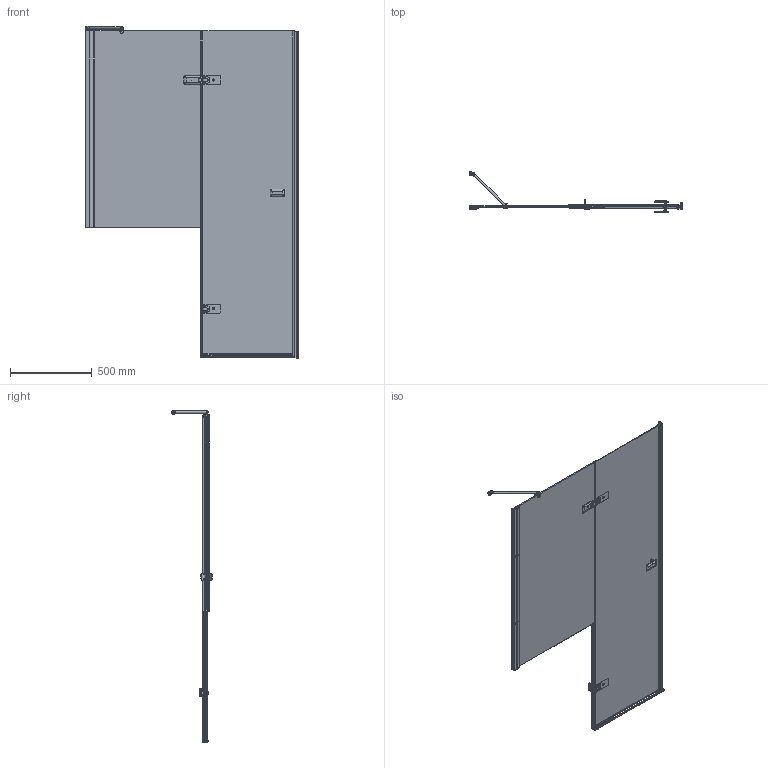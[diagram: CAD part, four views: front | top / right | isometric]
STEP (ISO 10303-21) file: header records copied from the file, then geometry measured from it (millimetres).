
FILE_DESCRIPTION(/* description */ ('Дверь'),/* implementation_level */ '2;1');
FILE_NAME(/* name */ 'D:\Работа\Сергей\Душевые кабинки\! Работа\! 32\TREND DOOR GK-862APLTWO\TREND DOOR GK-862APLTWO левая модель\TREND DOOR GK-862APLTWO ЛЕВАЯ (3D для рендера).stp',/* time_stamp */ '2019-05-10T16:57:15+03:00',/* author */ ('User'),/* organization */ (''),/* preprocessor_version */ 'ST-DEVELOPER v15.2',/* originating_system */ 'Autodesk Inventor 2014',/* authorisation */ '');
FILE_SCHEMA (('CONFIG_CONTROL_DESIGN'));
Length unit declared in the file: millimetre
Products named in the file (64): Стекло.03 (0) TR; Стекло.02 (P-5) TR; CH26-1 P1; CH26-1 P7; CH25-1 P2; CH25-1 P3; CH26-1 P8; CH27-1_2; CH26-1 P2; CH26-1 P3; CH26-1 P4; CH26-1 P5; CH26-1 P6; CH26-0 P13; CH26-0 P14; CH26-0 P15; CH26-0 P11; CH26-0 P12; CH27-0 P1; CH27-0 P3; CH27-0-P2; CH27-1_1; M180-6; Магнит_180; М180-6; UP600M6.01; PR-10-SLK; 07-003; CH20-004; CH21-001; CH21-002; CH21-003; ISO 4026 - M5 x 5ISO; 113; UP603М8.03; PL-10-SLK10-L; PR-12-001; CH27-5 P1; CH27-5 P2; DIN 915 - M6 x 12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
Bounding box: 1300 x 249.9 x 2031.5 mm (x, y, z)
Volume: 15008663 mm3; surface area: 6012656.9 mm2
Topology: 111 solids, 111 shells, 1997 faces, 5009 edges, 3248 vertices
Faces by surface type: plane 1131, cylinder 619, cone 144, bspline 60, torus 35, sphere 8
Full cylindrical faces by diameter (mm): 1.5 x6, 2.459 x2, 3 x3, 3.242 x6, 4 x19, 4.1 x1, 4.134 x5, 4.917 x6, 5 x10, 5.2 x2, 5.4 x2, 5.54 x2, 6 x19, 6.5 x6, 6.647 x1, 7.2 x4, 8 x9, 8.2 x4, 8.5 x1, 9 x7, 10 x5, 11 x5, 11.34 x8, 12 x15, 12.5 x1, 13 x11, 15 x1, 16 x3, 16.5 x2, 17.85 x2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
Entity records: 46216 total; most frequent: CARTESIAN_POINT 10321, DIRECTION 7397, ORIENTED_EDGE 6920, EDGE_CURVE 3460, AXIS2_PLACEMENT_3D 2589, VERTEX_POINT 2357, LINE 2219, VECTOR 2219
